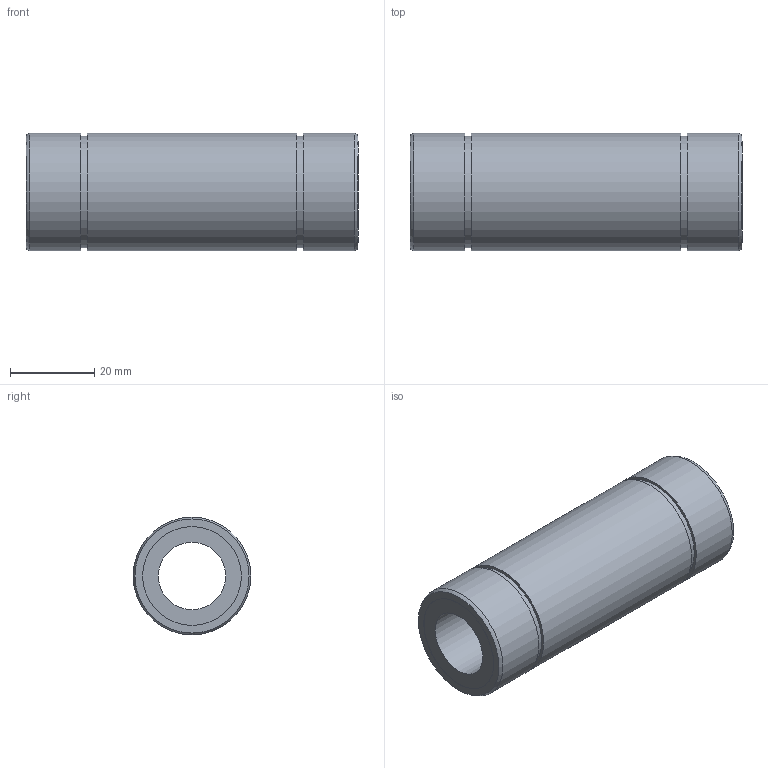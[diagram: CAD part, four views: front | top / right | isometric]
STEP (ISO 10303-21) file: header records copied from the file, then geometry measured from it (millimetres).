
FILE_DESCRIPTION((''),'2;1');
FILE_NAME('D:\製品 (図面)\カタログ用3D\メンテナンスフリー関連\STEP形式\LD-MF\LD16MF.stp','2010-06-01T15:35:56',('Tsuchiya'),(''),'Autodesk Inventor 10','Autodesk Inventor 10','');
FILE_SCHEMA(('AUTOMOTIVE_DESIGN { 1 0 10303 214 1 1 1 1 }'));
Length unit declared in the file: millimetre
Products named in the file (1): LD16MF
Bounding box: 79 x 28 x 28 mm (x, y, z)
Volume: 32492.4 mm3; surface area: 11921.1 mm2
Topology: 1 solids, 1 shells, 18 faces, 28 edges, 18 vertices
Faces by surface type: plane 8, cylinder 8, torus 2
Full cylindrical faces by diameter (mm): 16 x1, 23.5 x2, 26.6 x2, 28 x3
Entity records: 391 total; most frequent: DIRECTION 74, CARTESIAN_POINT 55, AXIS2_PLACEMENT_3D 37, ORIENTED_EDGE 36, EDGE_LOOP 36, VERTEX_POINT 18, CIRCLE 18, EDGE_CURVE 18
